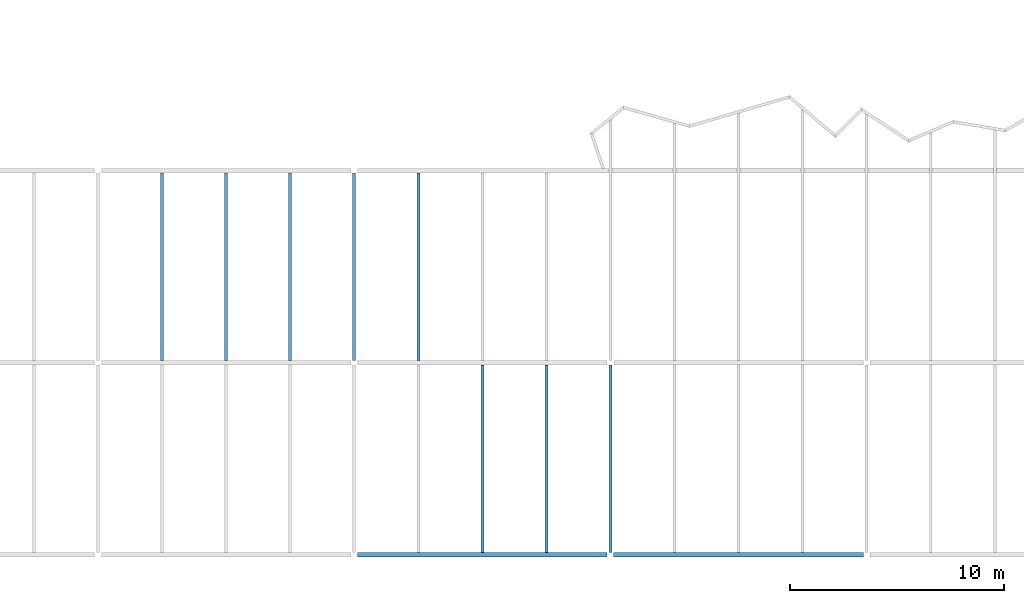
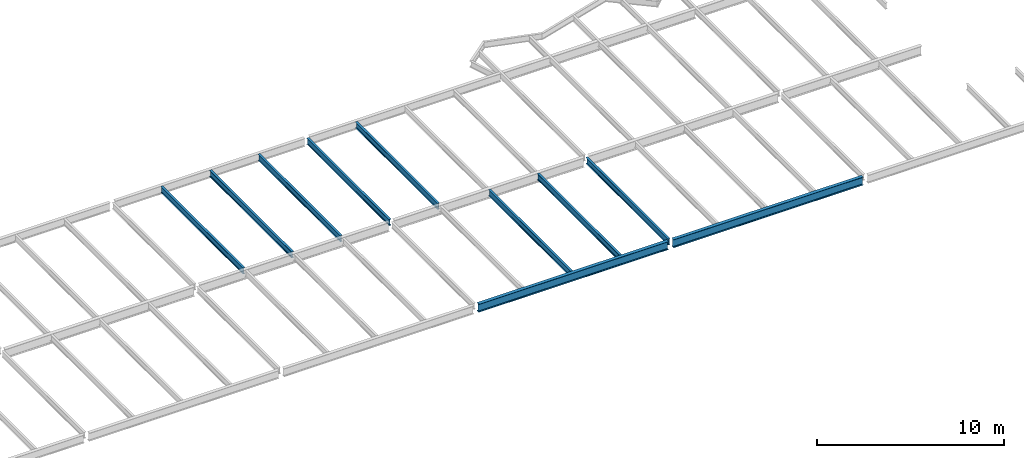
# One storey, part 17 of 23: 10 beams.
"""IFC2X3 building model written with IfcOpenShell, lengths in millimetres."""

from ifc_helpers import new_model, si_unit, origin, place, context, project, spatial, faceted_brep, material, element, save


model = new_model("IFC2X3")

# Units and contexts
context_of_model = context(None, 3, precision=1e-05, world=origin())
ifc_project = project(units=[si_unit("LENGTHUNIT", "METRE", prefix="MILLI")], contexts=[context_of_model])

# Building, storey
building = spatial("IfcBuilding", under=ifc_project, Name="Building", CompositionType="ELEMENT")
storey = spatial("IfcBuildingStorey", under=building, Name="FL5-FRM", CompositionType="ELEMENT")

# Beams
ifc_material_1 = material(Name="A992")
beam_1_placement = place(None, origin())
element("IfcBeam", 1, at=beam_1_placement, inside=storey, material=ifc_material_1, Name="B817", context=context_of_model, shape_type="Brep", body=[
    faceted_brep([(38930.0, 26895.5, 17474.0), (39070.0, 26895.5, 17474.0), (39070.0, 18114.5, 17474.0), (38930.0, 18114.5, 17474.0), (39070.0, 26895.5, 17482.8), (39070.0, 18114.5, 17482.8), (39013.4, 26895.5, 17482.8), (39013.4, 18114.5, 17482.8), (39010.8, 26895.5, 17483.1), (39010.8, 18114.5, 17483.1), (39008.3, 26895.5, 17484.2), (39008.3, 18114.5, 17484.2), (39006.2, 26895.5, 17485.8), (39006.2, 18114.5, 17485.8), (39004.6, 26895.5, 17487.9), (39004.6, 18114.5, 17487.9), (39003.5, 26895.5, 17490.4), (39003.5, 18114.5, 17490.4), (39003.2, 26895.5, 17493.0), (39003.2, 18114.5, 17493.0), (39003.2, 26895.5, 17854.0), (39003.2, 18114.5, 17854.0), (39003.5, 26895.5, 17856.6), (39003.5, 18114.5, 17856.6), (39004.6, 26895.5, 17859.1), (39004.6, 18114.5, 17859.1), (39006.2, 26895.5, 17861.2), (39006.2, 18114.5, 17861.2), (39008.3, 26895.5, 17862.8), (39008.3, 18114.5, 17862.8), (39010.8, 26895.5, 17863.9), (39010.8, 18114.5, 17863.9), (39013.4, 26895.5, 17864.2), (39013.4, 18114.5, 17864.2), (39070.0, 26895.5, 17864.2), (39070.0, 18114.5, 17864.2), (39070.0, 26895.5, 17873.0), (39070.0, 18114.5, 17873.0), (38930.0, 26895.5, 17873.0), (38930.0, 18114.5, 17873.0), (38930.0, 26895.5, 17864.2), (38930.0, 18114.5, 17864.2), (38986.6, 26895.5, 17864.2), (38986.6, 18114.5, 17864.2), (38989.2, 26895.5, 17863.9), (38989.2, 18114.5, 17863.9), (38991.7, 26895.5, 17862.8), (38991.7, 18114.5, 17862.8), (38993.8, 26895.5, 17861.2), (38993.8, 18114.5, 17861.2), (38995.4, 26895.5, 17859.1), (38995.4, 18114.5, 17859.1), (38996.5, 26895.5, 17856.6), (38996.5, 18114.5, 17856.6), (38996.8, 26895.5, 17854.0), (38996.8, 18114.5, 17854.0), (38996.8, 26895.5, 17493.0), (38996.8, 18114.5, 17493.0), (38996.5, 26895.5, 17490.4), (38996.5, 18114.5, 17490.4), (38995.4, 26895.5, 17487.9), (38995.4, 18114.5, 17487.9), (38993.8, 26895.5, 17485.8), (38993.8, 18114.5, 17485.8), (38991.7, 26895.5, 17484.2), (38991.7, 18114.5, 17484.2), (38989.2, 26895.5, 17483.1), (38989.2, 18114.5, 17483.1), (38986.6, 26895.5, 17482.8), (38986.6, 18114.5, 17482.8), (38930.0, 26895.5, 17482.8), (38930.0, 18114.5, 17482.8)], [[[0, 1, 2, 3]], [[1, 4, 5, 2]], [[4, 6, 7, 5]], [[6, 8, 9, 7]], [[8, 10, 11, 9]], [[10, 12, 13, 11]], [[12, 14, 15, 13]], [[14, 16, 17, 15]], [[16, 18, 19, 17]], [[18, 20, 21, 19]], [[20, 22, 23, 21]], [[22, 24, 25, 23]], [[24, 26, 27, 25]], [[26, 28, 29, 27]], [[28, 30, 31, 29]], [[30, 32, 33, 31]], [[32, 34, 35, 33]], [[34, 36, 37, 35]], [[36, 38, 39, 37]], [[38, 40, 41, 39]], [[40, 42, 43, 41]], [[42, 44, 45, 43]], [[44, 46, 47, 45]], [[46, 48, 49, 47]], [[48, 50, 51, 49]], [[50, 52, 53, 51]], [[52, 54, 55, 53]], [[54, 56, 57, 55]], [[56, 58, 59, 57]], [[58, 60, 61, 59]], [[60, 62, 63, 61]], [[62, 64, 65, 63]], [[64, 66, 67, 65]], [[66, 68, 69, 67]], [[68, 70, 71, 69]], [[70, 0, 3, 71]], [[0, 70, 68, 66, 64, 62, 60, 58, 56, 54, 52, 50, 48, 46, 44, 42, 40, 38, 36, 34, 32, 30, 28, 26, 24, 22, 20, 18, 16, 14, 12, 10, 8, 6, 4, 1]], [[3, 2, 5, 7, 9, 11, 13, 15, 17, 19, 21, 23, 25, 27, 29, 31, 33, 35, 37, 39, 41, 43, 45, 47, 49, 51, 53, 55, 57, 59, 61, 63, 65, 67, 69, 71]]]),
])
ifc_material_2 = material(Name="A992")
beam_2_placement = place(None, origin())
element("IfcBeam", 2, at=beam_2_placement, inside=storey, material=ifc_material_2, Name="B818", context=context_of_model, shape_type="Brep", body=[
    faceted_brep([(41930.0, 26895.5, 17474.0), (42070.0, 26895.5, 17474.0), (42070.0, 18114.5, 17474.0), (41930.0, 18114.5, 17474.0), (42070.0, 26895.5, 17482.8), (42070.0, 18114.5, 17482.8), (42013.4, 26895.5, 17482.8), (42013.4, 18114.5, 17482.8), (42010.8, 26895.5, 17483.1), (42010.8, 18114.5, 17483.1), (42008.3, 26895.5, 17484.2), (42008.3, 18114.5, 17484.2), (42006.2, 26895.5, 17485.8), (42006.2, 18114.5, 17485.8), (42004.6, 26895.5, 17487.9), (42004.6, 18114.5, 17487.9), (42003.5, 26895.5, 17490.4), (42003.5, 18114.5, 17490.4), (42003.2, 26895.5, 17493.0), (42003.2, 18114.5, 17493.0), (42003.2, 26895.5, 17854.0), (42003.2, 18114.5, 17854.0), (42003.5, 26895.5, 17856.6), (42003.5, 18114.5, 17856.6), (42004.6, 26895.5, 17859.1), (42004.6, 18114.5, 17859.1), (42006.2, 26895.5, 17861.2), (42006.2, 18114.5, 17861.2), (42008.3, 26895.5, 17862.8), (42008.3, 18114.5, 17862.8), (42010.8, 26895.5, 17863.9), (42010.8, 18114.5, 17863.9), (42013.4, 26895.5, 17864.2), (42013.4, 18114.5, 17864.2), (42070.0, 26895.5, 17864.2), (42070.0, 18114.5, 17864.2), (42070.0, 26895.5, 17873.0), (42070.0, 18114.5, 17873.0), (41930.0, 26895.5, 17873.0), (41930.0, 18114.5, 17873.0), (41930.0, 26895.5, 17864.2), (41930.0, 18114.5, 17864.2), (41986.6, 26895.5, 17864.2), (41986.6, 18114.5, 17864.2), (41989.2, 26895.5, 17863.9), (41989.2, 18114.5, 17863.9), (41991.7, 26895.5, 17862.8), (41991.7, 18114.5, 17862.8), (41993.8, 26895.5, 17861.2), (41993.8, 18114.5, 17861.2), (41995.4, 26895.5, 17859.1), (41995.4, 18114.5, 17859.1), (41996.5, 26895.5, 17856.6), (41996.5, 18114.5, 17856.6), (41996.8, 26895.5, 17854.0), (41996.8, 18114.5, 17854.0), (41996.8, 26895.5, 17493.0), (41996.8, 18114.5, 17493.0), (41996.5, 26895.5, 17490.4), (41996.5, 18114.5, 17490.4), (41995.4, 26895.5, 17487.9), (41995.4, 18114.5, 17487.9), (41993.8, 26895.5, 17485.8), (41993.8, 18114.5, 17485.8), (41991.7, 26895.5, 17484.2), (41991.7, 18114.5, 17484.2), (41989.2, 26895.5, 17483.1), (41989.2, 18114.5, 17483.1), (41986.6, 26895.5, 17482.8), (41986.6, 18114.5, 17482.8), (41930.0, 26895.5, 17482.8), (41930.0, 18114.5, 17482.8)], [[[0, 1, 2, 3]], [[1, 4, 5, 2]], [[4, 6, 7, 5]], [[6, 8, 9, 7]], [[8, 10, 11, 9]], [[10, 12, 13, 11]], [[12, 14, 15, 13]], [[14, 16, 17, 15]], [[16, 18, 19, 17]], [[18, 20, 21, 19]], [[20, 22, 23, 21]], [[22, 24, 25, 23]], [[24, 26, 27, 25]], [[26, 28, 29, 27]], [[28, 30, 31, 29]], [[30, 32, 33, 31]], [[32, 34, 35, 33]], [[34, 36, 37, 35]], [[36, 38, 39, 37]], [[38, 40, 41, 39]], [[40, 42, 43, 41]], [[42, 44, 45, 43]], [[44, 46, 47, 45]], [[46, 48, 49, 47]], [[48, 50, 51, 49]], [[50, 52, 53, 51]], [[52, 54, 55, 53]], [[54, 56, 57, 55]], [[56, 58, 59, 57]], [[58, 60, 61, 59]], [[60, 62, 63, 61]], [[62, 64, 65, 63]], [[64, 66, 67, 65]], [[66, 68, 69, 67]], [[68, 70, 71, 69]], [[70, 0, 3, 71]], [[0, 70, 68, 66, 64, 62, 60, 58, 56, 54, 52, 50, 48, 46, 44, 42, 40, 38, 36, 34, 32, 30, 28, 26, 24, 22, 20, 18, 16, 14, 12, 10, 8, 6, 4, 1]], [[3, 2, 5, 7, 9, 11, 13, 15, 17, 19, 21, 23, 25, 27, 29, 31, 33, 35, 37, 39, 41, 43, 45, 47, 49, 51, 53, 55, 57, 59, 61, 63, 65, 67, 69, 71]]]),
])
ifc_material_3 = material(Name="A992")
beam_3_placement = place(None, origin())
element("IfcBeam", 3, at=beam_3_placement, inside=storey, material=ifc_material_3, Name="B819", context=context_of_model, shape_type="Brep", body=[
    faceted_brep([(44930.0, 26895.5, 17474.0), (45070.0, 26895.5, 17474.0), (45070.0, 18114.5, 17474.0), (44930.0, 18114.5, 17474.0), (45070.0, 26895.5, 17482.8), (45070.0, 18114.5, 17482.8), (45013.4, 26895.5, 17482.8), (45013.4, 18114.5, 17482.8), (45010.8, 26895.5, 17483.1), (45010.8, 18114.5, 17483.1), (45008.3, 26895.5, 17484.2), (45008.3, 18114.5, 17484.2), (45006.2, 26895.5, 17485.8), (45006.2, 18114.5, 17485.8), (45004.6, 26895.5, 17487.9), (45004.6, 18114.5, 17487.9), (45003.5, 26895.5, 17490.4), (45003.5, 18114.5, 17490.4), (45003.2, 26895.5, 17493.0), (45003.2, 18114.5, 17493.0), (45003.2, 26895.5, 17854.0), (45003.2, 18114.5, 17854.0), (45003.5, 26895.5, 17856.6), (45003.5, 18114.5, 17856.6), (45004.6, 26895.5, 17859.1), (45004.6, 18114.5, 17859.1), (45006.2, 26895.5, 17861.2), (45006.2, 18114.5, 17861.2), (45008.3, 26895.5, 17862.8), (45008.3, 18114.5, 17862.8), (45010.8, 26895.5, 17863.9), (45010.8, 18114.5, 17863.9), (45013.4, 26895.5, 17864.2), (45013.4, 18114.5, 17864.2), (45070.0, 26895.5, 17864.2), (45070.0, 18114.5, 17864.2), (45070.0, 26895.5, 17873.0), (45070.0, 18114.5, 17873.0), (44930.0, 26895.5, 17873.0), (44930.0, 18114.5, 17873.0), (44930.0, 26895.5, 17864.2), (44930.0, 18114.5, 17864.2), (44986.6, 26895.5, 17864.2), (44986.6, 18114.5, 17864.2), (44989.2, 26895.5, 17863.9), (44989.2, 18114.5, 17863.9), (44991.7, 26895.5, 17862.8), (44991.7, 18114.5, 17862.8), (44993.8, 26895.5, 17861.2), (44993.8, 18114.5, 17861.2), (44995.4, 26895.5, 17859.1), (44995.4, 18114.5, 17859.1), (44996.5, 26895.5, 17856.6), (44996.5, 18114.5, 17856.6), (44996.8, 26895.5, 17854.0), (44996.8, 18114.5, 17854.0), (44996.8, 26895.5, 17493.0), (44996.8, 18114.5, 17493.0), (44996.5, 26895.5, 17490.4), (44996.5, 18114.5, 17490.4), (44995.4, 26895.5, 17487.9), (44995.4, 18114.5, 17487.9), (44993.8, 26895.5, 17485.8), (44993.8, 18114.5, 17485.8), (44991.7, 26895.5, 17484.2), (44991.7, 18114.5, 17484.2), (44989.2, 26895.5, 17483.1), (44989.2, 18114.5, 17483.1), (44986.6, 26895.5, 17482.8), (44986.6, 18114.5, 17482.8), (44930.0, 26895.5, 17482.8), (44930.0, 18114.5, 17482.8)], [[[0, 1, 2, 3]], [[1, 4, 5, 2]], [[4, 6, 7, 5]], [[6, 8, 9, 7]], [[8, 10, 11, 9]], [[10, 12, 13, 11]], [[12, 14, 15, 13]], [[14, 16, 17, 15]], [[16, 18, 19, 17]], [[18, 20, 21, 19]], [[20, 22, 23, 21]], [[22, 24, 25, 23]], [[24, 26, 27, 25]], [[26, 28, 29, 27]], [[28, 30, 31, 29]], [[30, 32, 33, 31]], [[32, 34, 35, 33]], [[34, 36, 37, 35]], [[36, 38, 39, 37]], [[38, 40, 41, 39]], [[40, 42, 43, 41]], [[42, 44, 45, 43]], [[44, 46, 47, 45]], [[46, 48, 49, 47]], [[48, 50, 51, 49]], [[50, 52, 53, 51]], [[52, 54, 55, 53]], [[54, 56, 57, 55]], [[56, 58, 59, 57]], [[58, 60, 61, 59]], [[60, 62, 63, 61]], [[62, 64, 65, 63]], [[64, 66, 67, 65]], [[66, 68, 69, 67]], [[68, 70, 71, 69]], [[70, 0, 3, 71]], [[0, 70, 68, 66, 64, 62, 60, 58, 56, 54, 52, 50, 48, 46, 44, 42, 40, 38, 36, 34, 32, 30, 28, 26, 24, 22, 20, 18, 16, 14, 12, 10, 8, 6, 4, 1]], [[3, 2, 5, 7, 9, 11, 13, 15, 17, 19, 21, 23, 25, 27, 29, 31, 33, 35, 37, 39, 41, 43, 45, 47, 49, 51, 53, 55, 57, 59, 61, 63, 65, 67, 69, 71]]]),
])
ifc_material_4 = material(Name="A992")
beam_4_placement = place(None, origin())
element("IfcBeam", 4, at=beam_4_placement, inside=storey, material=ifc_material_4, Name="B825", context=context_of_model, shape_type="Brep", body=[
    faceted_brep([(50930.0, 26895.5, 17474.0), (51070.0, 26895.5, 17474.0), (51070.0, 18114.5, 17474.0), (50930.0, 18114.5, 17474.0), (51070.0, 26895.5, 17482.8), (51070.0, 18114.5, 17482.8), (51013.4, 26895.5, 17482.8), (51013.4, 18114.5, 17482.8), (51010.8, 26895.5, 17483.1), (51010.8, 18114.5, 17483.1), (51008.3, 26895.5, 17484.2), (51008.3, 18114.5, 17484.2), (51006.2, 26895.5, 17485.8), (51006.2, 18114.5, 17485.8), (51004.6, 26895.5, 17487.9), (51004.6, 18114.5, 17487.9), (51003.5, 26895.5, 17490.4), (51003.5, 18114.5, 17490.4), (51003.2, 26895.5, 17493.0), (51003.2, 18114.5, 17493.0), (51003.2, 26895.5, 17854.0), (51003.2, 18114.5, 17854.0), (51003.5, 26895.5, 17856.6), (51003.5, 18114.5, 17856.6), (51004.6, 26895.5, 17859.1), (51004.6, 18114.5, 17859.1), (51006.2, 26895.5, 17861.2), (51006.2, 18114.5, 17861.2), (51008.3, 26895.5, 17862.8), (51008.3, 18114.5, 17862.8), (51010.8, 26895.5, 17863.9), (51010.8, 18114.5, 17863.9), (51013.4, 26895.5, 17864.2), (51013.4, 18114.5, 17864.2), (51070.0, 26895.5, 17864.2), (51070.0, 18114.5, 17864.2), (51070.0, 26895.5, 17873.0), (51070.0, 18114.5, 17873.0), (50930.0, 26895.5, 17873.0), (50930.0, 18114.5, 17873.0), (50930.0, 26895.5, 17864.2), (50930.0, 18114.5, 17864.2), (50986.6, 26895.5, 17864.2), (50986.6, 18114.5, 17864.2), (50989.2, 26895.5, 17863.9), (50989.2, 18114.5, 17863.9), (50991.7, 26895.5, 17862.8), (50991.7, 18114.5, 17862.8), (50993.8, 26895.5, 17861.2), (50993.8, 18114.5, 17861.2), (50995.4, 26895.5, 17859.1), (50995.4, 18114.5, 17859.1), (50996.5, 26895.5, 17856.6), (50996.5, 18114.5, 17856.6), (50996.8, 26895.5, 17854.0), (50996.8, 18114.5, 17854.0), (50996.8, 26895.5, 17493.0), (50996.8, 18114.5, 17493.0), (50996.5, 26895.5, 17490.4), (50996.5, 18114.5, 17490.4), (50995.4, 26895.5, 17487.9), (50995.4, 18114.5, 17487.9), (50993.8, 26895.5, 17485.8), (50993.8, 18114.5, 17485.8), (50991.7, 26895.5, 17484.2), (50991.7, 18114.5, 17484.2), (50989.2, 26895.5, 17483.1), (50989.2, 18114.5, 17483.1), (50986.6, 26895.5, 17482.8), (50986.6, 18114.5, 17482.8), (50930.0, 26895.5, 17482.8), (50930.0, 18114.5, 17482.8)], [[[0, 1, 2, 3]], [[1, 4, 5, 2]], [[4, 6, 7, 5]], [[6, 8, 9, 7]], [[8, 10, 11, 9]], [[10, 12, 13, 11]], [[12, 14, 15, 13]], [[14, 16, 17, 15]], [[16, 18, 19, 17]], [[18, 20, 21, 19]], [[20, 22, 23, 21]], [[22, 24, 25, 23]], [[24, 26, 27, 25]], [[26, 28, 29, 27]], [[28, 30, 31, 29]], [[30, 32, 33, 31]], [[32, 34, 35, 33]], [[34, 36, 37, 35]], [[36, 38, 39, 37]], [[38, 40, 41, 39]], [[40, 42, 43, 41]], [[42, 44, 45, 43]], [[44, 46, 47, 45]], [[46, 48, 49, 47]], [[48, 50, 51, 49]], [[50, 52, 53, 51]], [[52, 54, 55, 53]], [[54, 56, 57, 55]], [[56, 58, 59, 57]], [[58, 60, 61, 59]], [[60, 62, 63, 61]], [[62, 64, 65, 63]], [[64, 66, 67, 65]], [[66, 68, 69, 67]], [[68, 70, 71, 69]], [[70, 0, 3, 71]], [[0, 70, 68, 66, 64, 62, 60, 58, 56, 54, 52, 50, 48, 46, 44, 42, 40, 38, 36, 34, 32, 30, 28, 26, 24, 22, 20, 18, 16, 14, 12, 10, 8, 6, 4, 1]], [[3, 2, 5, 7, 9, 11, 13, 15, 17, 19, 21, 23, 25, 27, 29, 31, 33, 35, 37, 39, 41, 43, 45, 47, 49, 51, 53, 55, 57, 59, 61, 63, 65, 67, 69, 71]]]),
])
ifc_material_5 = material(Name="A992")
beam_5_placement = place(None, origin())
element("IfcBeam", 5, at=beam_5_placement, inside=storey, material=ifc_material_5, Name="B828", context=context_of_model, shape_type="Brep", body=[
    faceted_brep([(48070.0, 18114.5, 17474.0), (47930.0, 18114.5, 17474.0), (47930.0, 26895.5, 17474.0), (48070.0, 26895.5, 17474.0), (47930.0, 18114.5, 17482.8), (47930.0, 26895.5, 17482.8), (47986.6, 18114.5, 17482.8), (47986.6, 26895.5, 17482.8), (47989.2, 18114.5, 17483.1), (47989.2, 26895.5, 17483.1), (47991.7, 18114.5, 17484.2), (47991.7, 26895.5, 17484.2), (47993.8, 18114.5, 17485.8), (47993.8, 26895.5, 17485.8), (47995.4, 18114.5, 17487.9), (47995.4, 26895.5, 17487.9), (47996.5, 18114.5, 17490.4), (47996.5, 26895.5, 17490.4), (47996.8, 18114.5, 17493.0), (47996.8, 26895.5, 17493.0), (47996.8, 18114.5, 17854.0), (47996.8, 26895.5, 17854.0), (47996.5, 18114.5, 17856.6), (47996.5, 26895.5, 17856.6), (47995.4, 18114.5, 17859.1), (47995.4, 26895.5, 17859.1), (47993.8, 18114.5, 17861.2), (47993.8, 26895.5, 17861.2), (47991.7, 18114.5, 17862.8), (47991.7, 26895.5, 17862.8), (47989.2, 18114.5, 17863.9), (47989.2, 26895.5, 17863.9), (47986.6, 18114.5, 17864.2), (47986.6, 26895.5, 17864.2), (47930.0, 18114.5, 17864.2), (47930.0, 26895.5, 17864.2), (47930.0, 18114.5, 17873.0), (47930.0, 26895.5, 17873.0), (48070.0, 18114.5, 17873.0), (48070.0, 26895.5, 17873.0), (48070.0, 18114.5, 17864.2), (48070.0, 26895.5, 17864.2), (48013.4, 18114.5, 17864.2), (48013.4, 26895.5, 17864.2), (48010.8, 18114.5, 17863.9), (48010.8, 26895.5, 17863.9), (48008.3, 18114.5, 17862.8), (48008.3, 26895.5, 17862.8), (48006.2, 18114.5, 17861.2), (48006.2, 26895.5, 17861.2), (48004.6, 18114.5, 17859.1), (48004.6, 26895.5, 17859.1), (48003.5, 18114.5, 17856.6), (48003.5, 26895.5, 17856.6), (48003.2, 18114.5, 17854.0), (48003.2, 26895.5, 17854.0), (48003.2, 18114.5, 17493.0), (48003.2, 26895.5, 17493.0), (48003.5, 18114.5, 17490.4), (48003.5, 26895.5, 17490.4), (48004.6, 18114.5, 17487.9), (48004.6, 26895.5, 17487.9), (48006.2, 18114.5, 17485.8), (48006.2, 26895.5, 17485.8), (48008.3, 18114.5, 17484.2), (48008.3, 26895.5, 17484.2), (48010.8, 18114.5, 17483.1), (48010.8, 26895.5, 17483.1), (48013.4, 18114.5, 17482.8), (48013.4, 26895.5, 17482.8), (48070.0, 18114.5, 17482.8), (48070.0, 26895.5, 17482.8)], [[[0, 1, 2, 3]], [[1, 4, 5, 2]], [[4, 6, 7, 5]], [[6, 8, 9, 7]], [[8, 10, 11, 9]], [[10, 12, 13, 11]], [[12, 14, 15, 13]], [[14, 16, 17, 15]], [[16, 18, 19, 17]], [[18, 20, 21, 19]], [[20, 22, 23, 21]], [[22, 24, 25, 23]], [[24, 26, 27, 25]], [[26, 28, 29, 27]], [[28, 30, 31, 29]], [[30, 32, 33, 31]], [[32, 34, 35, 33]], [[34, 36, 37, 35]], [[36, 38, 39, 37]], [[38, 40, 41, 39]], [[40, 42, 43, 41]], [[42, 44, 45, 43]], [[44, 46, 47, 45]], [[46, 48, 49, 47]], [[48, 50, 51, 49]], [[50, 52, 53, 51]], [[52, 54, 55, 53]], [[54, 56, 57, 55]], [[56, 58, 59, 57]], [[58, 60, 61, 59]], [[60, 62, 63, 61]], [[62, 64, 65, 63]], [[64, 66, 67, 65]], [[66, 68, 69, 67]], [[68, 70, 71, 69]], [[70, 0, 3, 71]], [[0, 70, 68, 66, 64, 62, 60, 58, 56, 54, 52, 50, 48, 46, 44, 42, 40, 38, 36, 34, 32, 30, 28, 26, 24, 22, 20, 18, 16, 14, 12, 10, 8, 6, 4, 1]], [[3, 2, 5, 7, 9, 11, 13, 15, 17, 19, 21, 23, 25, 27, 29, 31, 33, 35, 37, 39, 41, 43, 45, 47, 49, 51, 53, 55, 57, 59, 61, 63, 65, 67, 69, 71]]]),
])
ifc_material_6 = material(Name="A992")
beam_6_placement = place(None, origin())
element("IfcBeam", 6, at=beam_6_placement, inside=storey, material=ifc_material_6, Name="B830", context=context_of_model, shape_type="Brep", body=[
    faceted_brep([(54070.0, 9104.5, 17474.0), (53930.0, 9104.5, 17474.0), (53930.0, 17885.5, 17474.0), (54070.0, 17885.5, 17474.0), (53930.0, 9104.5, 17482.8), (53930.0, 17885.5, 17482.8), (53986.6, 9104.5, 17482.8), (53986.6, 17885.5, 17482.8), (53989.2, 9104.5, 17483.1), (53989.2, 17885.5, 17483.1), (53991.7, 9104.5, 17484.2), (53991.7, 17885.5, 17484.2), (53993.8, 9104.5, 17485.8), (53993.8, 17885.5, 17485.8), (53995.4, 9104.5, 17487.9), (53995.4, 17885.5, 17487.9), (53996.5, 9104.5, 17490.4), (53996.5, 17885.5, 17490.4), (53996.8, 9104.5, 17493.0), (53996.8, 17885.5, 17493.0), (53996.8, 9104.5, 17854.0), (53996.8, 17885.5, 17854.0), (53996.5, 9104.5, 17856.6), (53996.5, 17885.5, 17856.6), (53995.4, 9104.5, 17859.1), (53995.4, 17885.5, 17859.1), (53993.8, 9104.5, 17861.2), (53993.8, 17885.5, 17861.2), (53991.7, 9104.5, 17862.8), (53991.7, 17885.5, 17862.8), (53989.2, 9104.5, 17863.9), (53989.2, 17885.5, 17863.9), (53986.6, 9104.5, 17864.2), (53986.6, 17885.5, 17864.2), (53930.0, 9104.5, 17864.2), (53930.0, 17885.5, 17864.2), (53930.0, 9104.5, 17873.0), (53930.0, 17885.5, 17873.0), (54070.0, 9104.5, 17873.0), (54070.0, 17885.5, 17873.0), (54070.0, 9104.5, 17864.2), (54070.0, 17885.5, 17864.2), (54013.4, 9104.5, 17864.2), (54013.4, 17885.5, 17864.2), (54010.8, 9104.5, 17863.9), (54010.8, 17885.5, 17863.9), (54008.3, 9104.5, 17862.8), (54008.3, 17885.5, 17862.8), (54006.2, 9104.5, 17861.2), (54006.2, 17885.5, 17861.2), (54004.6, 9104.5, 17859.1), (54004.6, 17885.5, 17859.1), (54003.5, 9104.5, 17856.6), (54003.5, 17885.5, 17856.6), (54003.2, 9104.5, 17854.0), (54003.2, 17885.5, 17854.0), (54003.2, 9104.5, 17493.0), (54003.2, 17885.5, 17493.0), (54003.5, 9104.5, 17490.4), (54003.5, 17885.5, 17490.4), (54004.6, 9104.5, 17487.9), (54004.6, 17885.5, 17487.9), (54006.2, 9104.5, 17485.8), (54006.2, 17885.5, 17485.8), (54008.3, 9104.5, 17484.2), (54008.3, 17885.5, 17484.2), (54010.8, 9104.5, 17483.1), (54010.8, 17885.5, 17483.1), (54013.4, 9104.5, 17482.8), (54013.4, 17885.5, 17482.8), (54070.0, 9104.5, 17482.8), (54070.0, 17885.5, 17482.8)], [[[0, 1, 2, 3]], [[1, 4, 5, 2]], [[4, 6, 7, 5]], [[6, 8, 9, 7]], [[8, 10, 11, 9]], [[10, 12, 13, 11]], [[12, 14, 15, 13]], [[14, 16, 17, 15]], [[16, 18, 19, 17]], [[18, 20, 21, 19]], [[20, 22, 23, 21]], [[22, 24, 25, 23]], [[24, 26, 27, 25]], [[26, 28, 29, 27]], [[28, 30, 31, 29]], [[30, 32, 33, 31]], [[32, 34, 35, 33]], [[34, 36, 37, 35]], [[36, 38, 39, 37]], [[38, 40, 41, 39]], [[40, 42, 43, 41]], [[42, 44, 45, 43]], [[44, 46, 47, 45]], [[46, 48, 49, 47]], [[48, 50, 51, 49]], [[50, 52, 53, 51]], [[52, 54, 55, 53]], [[54, 56, 57, 55]], [[56, 58, 59, 57]], [[58, 60, 61, 59]], [[60, 62, 63, 61]], [[62, 64, 65, 63]], [[64, 66, 67, 65]], [[66, 68, 69, 67]], [[68, 70, 71, 69]], [[70, 0, 3, 71]], [[0, 70, 68, 66, 64, 62, 60, 58, 56, 54, 52, 50, 48, 46, 44, 42, 40, 38, 36, 34, 32, 30, 28, 26, 24, 22, 20, 18, 16, 14, 12, 10, 8, 6, 4, 1]], [[3, 2, 5, 7, 9, 11, 13, 15, 17, 19, 21, 23, 25, 27, 29, 31, 33, 35, 37, 39, 41, 43, 45, 47, 49, 51, 53, 55, 57, 59, 61, 63, 65, 67, 69, 71]]]),
])
ifc_material_7 = material(Name="A992")
beam_7_placement = place(None, origin())
element("IfcBeam", 7, at=beam_7_placement, inside=storey, material=ifc_material_7, Name="B831", context=context_of_model, shape_type="Brep", body=[
    faceted_brep([(57070.0, 9104.5, 17474.0), (56930.0, 9104.5, 17474.0), (56930.0, 17885.5, 17474.0), (57070.0, 17885.5, 17474.0), (56930.0, 9104.5, 17482.8), (56930.0, 17885.5, 17482.8), (56986.6, 9104.5, 17482.8), (56986.6, 17885.5, 17482.8), (56989.2, 9104.5, 17483.1), (56989.2, 17885.5, 17483.1), (56991.7, 9104.5, 17484.2), (56991.7, 17885.5, 17484.2), (56993.8, 9104.5, 17485.8), (56993.8, 17885.5, 17485.8), (56995.4, 9104.5, 17487.9), (56995.4, 17885.5, 17487.9), (56996.5, 9104.5, 17490.4), (56996.5, 17885.5, 17490.4), (56996.8, 9104.5, 17493.0), (56996.8, 17885.5, 17493.0), (56996.8, 9104.5, 17854.0), (56996.8, 17885.5, 17854.0), (56996.5, 9104.5, 17856.6), (56996.5, 17885.5, 17856.6), (56995.4, 9104.5, 17859.1), (56995.4, 17885.5, 17859.1), (56993.8, 9104.5, 17861.2), (56993.8, 17885.5, 17861.2), (56991.7, 9104.5, 17862.8), (56991.7, 17885.5, 17862.8), (56989.2, 9104.5, 17863.9), (56989.2, 17885.5, 17863.9), (56986.6, 9104.5, 17864.2), (56986.6, 17885.5, 17864.2), (56930.0, 9104.5, 17864.2), (56930.0, 17885.5, 17864.2), (56930.0, 9104.5, 17873.0), (56930.0, 17885.5, 17873.0), (57070.0, 9104.5, 17873.0), (57070.0, 17885.5, 17873.0), (57070.0, 9104.5, 17864.2), (57070.0, 17885.5, 17864.2), (57013.4, 9104.5, 17864.2), (57013.4, 17885.5, 17864.2), (57010.8, 9104.5, 17863.9), (57010.8, 17885.5, 17863.9), (57008.3, 9104.5, 17862.8), (57008.3, 17885.5, 17862.8), (57006.2, 9104.5, 17861.2), (57006.2, 17885.5, 17861.2), (57004.6, 9104.5, 17859.1), (57004.6, 17885.5, 17859.1), (57003.5, 9104.5, 17856.6), (57003.5, 17885.5, 17856.6), (57003.2, 9104.5, 17854.0), (57003.2, 17885.5, 17854.0), (57003.2, 9104.5, 17493.0), (57003.2, 17885.5, 17493.0), (57003.5, 9104.5, 17490.4), (57003.5, 17885.5, 17490.4), (57004.6, 9104.5, 17487.9), (57004.6, 17885.5, 17487.9), (57006.2, 9104.5, 17485.8), (57006.2, 17885.5, 17485.8), (57008.3, 9104.5, 17484.2), (57008.3, 17885.5, 17484.2), (57010.8, 9104.5, 17483.1), (57010.8, 17885.5, 17483.1), (57013.4, 9104.5, 17482.8), (57013.4, 17885.5, 17482.8), (57070.0, 9104.5, 17482.8), (57070.0, 17885.5, 17482.8)], [[[0, 1, 2, 3]], [[1, 4, 5, 2]], [[4, 6, 7, 5]], [[6, 8, 9, 7]], [[8, 10, 11, 9]], [[10, 12, 13, 11]], [[12, 14, 15, 13]], [[14, 16, 17, 15]], [[16, 18, 19, 17]], [[18, 20, 21, 19]], [[20, 22, 23, 21]], [[22, 24, 25, 23]], [[24, 26, 27, 25]], [[26, 28, 29, 27]], [[28, 30, 31, 29]], [[30, 32, 33, 31]], [[32, 34, 35, 33]], [[34, 36, 37, 35]], [[36, 38, 39, 37]], [[38, 40, 41, 39]], [[40, 42, 43, 41]], [[42, 44, 45, 43]], [[44, 46, 47, 45]], [[46, 48, 49, 47]], [[48, 50, 51, 49]], [[50, 52, 53, 51]], [[52, 54, 55, 53]], [[54, 56, 57, 55]], [[56, 58, 59, 57]], [[58, 60, 61, 59]], [[60, 62, 63, 61]], [[62, 64, 65, 63]], [[64, 66, 67, 65]], [[66, 68, 69, 67]], [[68, 70, 71, 69]], [[70, 0, 3, 71]], [[0, 70, 68, 66, 64, 62, 60, 58, 56, 54, 52, 50, 48, 46, 44, 42, 40, 38, 36, 34, 32, 30, 28, 26, 24, 22, 20, 18, 16, 14, 12, 10, 8, 6, 4, 1]], [[3, 2, 5, 7, 9, 11, 13, 15, 17, 19, 21, 23, 25, 27, 29, 31, 33, 35, 37, 39, 41, 43, 45, 47, 49, 51, 53, 55, 57, 59, 61, 63, 65, 67, 69, 71]]]),
])
ifc_material_8 = material(Name="A992")
beam_8_placement = place(None, origin())
element("IfcBeam", 8, at=beam_8_placement, inside=storey, material=ifc_material_8, Name="Column593", context=context_of_model, shape_type="Brep", body=[
    faceted_brep([(48153.0, 8895.5, 17345.0), (48153.0, 9104.5, 17345.0), (59847.0, 9104.5, 17345.0), (59847.0, 8895.5, 17345.0), (48153.0, 9104.5, 17358.3), (59847.0, 9104.5, 17358.3), (48153.0, 9017.45, 17358.3), (59847.0, 9017.45, 17358.3), (48153.0, 9014.16, 17358.7), (59847.0, 9014.16, 17358.7), (48153.0, 9011.1, 17360.0), (59847.0, 9011.1, 17360.0), (48153.0, 9008.47, 17362.0), (59847.0, 9008.47, 17362.0), (48153.0, 9006.45, 17364.7), (59847.0, 9006.45, 17364.7), (48153.0, 9005.18, 17367.7), (59847.0, 9005.18, 17367.7), (48153.0, 9004.75, 17371.0), (59847.0, 9004.75, 17371.0), (48153.0, 9004.75, 17847.0), (59847.0, 9004.75, 17847.0), (48153.0, 9005.18, 17850.3), (59847.0, 9005.18, 17850.3), (48153.0, 9006.45, 17853.3), (59847.0, 9006.45, 17853.3), (48153.0, 9008.47, 17856.0), (59847.0, 9008.47, 17856.0), (48153.0, 9011.1, 17858.0), (59847.0, 9011.1, 17858.0), (48153.0, 9014.16, 17859.3), (59847.0, 9014.16, 17859.3), (48153.0, 9017.45, 17859.7), (59847.0, 9017.45, 17859.7), (48153.0, 9104.5, 17859.7), (59847.0, 9104.5, 17859.7), (48153.0, 9104.5, 17873.0), (59847.0, 9104.5, 17873.0), (48153.0, 8895.5, 17873.0), (59847.0, 8895.5, 17873.0), (48153.0, 8895.5, 17859.7), (59847.0, 8895.5, 17859.7), (48153.0, 8982.55, 17859.7), (59847.0, 8982.55, 17859.7), (48153.0, 8985.84, 17859.3), (59847.0, 8985.84, 17859.3), (48153.0, 8988.9, 17858.0), (59847.0, 8988.9, 17858.0), (48153.0, 8991.53, 17856.0), (59847.0, 8991.53, 17856.0), (48153.0, 8993.55, 17853.3), (59847.0, 8993.55, 17853.3), (48153.0, 8994.82, 17850.3), (59847.0, 8994.82, 17850.3), (48153.0, 8995.25, 17847.0), (59847.0, 8995.25, 17847.0), (48153.0, 8995.25, 17371.0), (59847.0, 8995.25, 17371.0), (48153.0, 8994.82, 17367.7), (59847.0, 8994.82, 17367.7), (48153.0, 8993.55, 17364.7), (59847.0, 8993.55, 17364.7), (48153.0, 8991.53, 17362.0), (59847.0, 8991.53, 17362.0), (48153.0, 8988.9, 17360.0), (59847.0, 8988.9, 17360.0), (48153.0, 8985.84, 17358.7), (59847.0, 8985.84, 17358.7), (48153.0, 8982.55, 17358.3), (59847.0, 8982.55, 17358.3), (48153.0, 8895.5, 17358.3), (59847.0, 8895.5, 17358.3)], [[[0, 1, 2, 3]], [[1, 4, 5, 2]], [[4, 6, 7, 5]], [[6, 8, 9, 7]], [[8, 10, 11, 9]], [[10, 12, 13, 11]], [[12, 14, 15, 13]], [[14, 16, 17, 15]], [[16, 18, 19, 17]], [[18, 20, 21, 19]], [[20, 22, 23, 21]], [[22, 24, 25, 23]], [[24, 26, 27, 25]], [[26, 28, 29, 27]], [[28, 30, 31, 29]], [[30, 32, 33, 31]], [[32, 34, 35, 33]], [[34, 36, 37, 35]], [[36, 38, 39, 37]], [[38, 40, 41, 39]], [[40, 42, 43, 41]], [[42, 44, 45, 43]], [[44, 46, 47, 45]], [[46, 48, 49, 47]], [[48, 50, 51, 49]], [[50, 52, 53, 51]], [[52, 54, 55, 53]], [[54, 56, 57, 55]], [[56, 58, 59, 57]], [[58, 60, 61, 59]], [[60, 62, 63, 61]], [[62, 64, 65, 63]], [[64, 66, 67, 65]], [[66, 68, 69, 67]], [[68, 70, 71, 69]], [[70, 0, 3, 71]], [[0, 70, 68, 66, 64, 62, 60, 58, 56, 54, 52, 50, 48, 46, 44, 42, 40, 38, 36, 34, 32, 30, 28, 26, 24, 22, 20, 18, 16, 14, 12, 10, 8, 6, 4, 1]], [[3, 2, 5, 7, 9, 11, 13, 15, 17, 19, 21, 23, 25, 27, 29, 31, 33, 35, 37, 39, 41, 43, 45, 47, 49, 51, 53, 55, 57, 59, 61, 63, 65, 67, 69, 71]]]),
])
ifc_material_9 = material(Name="A992")
beam_9_placement = place(None, origin())
element("IfcBeam", 9, at=beam_9_placement, inside=storey, material=ifc_material_9, Name="B840", context=context_of_model, shape_type="Brep", body=[
    faceted_brep([(60070.0, 9104.5, 17474.0), (59930.0, 9104.5, 17474.0), (59930.0, 17885.5, 17474.0), (60070.0, 17885.5, 17474.0), (59930.0, 9104.5, 17482.8), (59930.0, 17885.5, 17482.8), (59986.6, 9104.5, 17482.8), (59986.6, 17885.5, 17482.8), (59989.2, 9104.5, 17483.1), (59989.2, 17885.5, 17483.1), (59991.7, 9104.5, 17484.2), (59991.7, 17885.5, 17484.2), (59993.8, 9104.5, 17485.8), (59993.8, 17885.5, 17485.8), (59995.4, 9104.5, 17487.9), (59995.4, 17885.5, 17487.9), (59996.5, 9104.5, 17490.4), (59996.5, 17885.5, 17490.4), (59996.8, 9104.5, 17493.0), (59996.8, 17885.5, 17493.0), (59996.8, 9104.5, 17854.0), (59996.8, 17885.5, 17854.0), (59996.5, 9104.5, 17856.6), (59996.5, 17885.5, 17856.6), (59995.4, 9104.5, 17859.1), (59995.4, 17885.5, 17859.1), (59993.8, 9104.5, 17861.2), (59993.8, 17885.5, 17861.2), (59991.7, 9104.5, 17862.8), (59991.7, 17885.5, 17862.8), (59989.2, 9104.5, 17863.9), (59989.2, 17885.5, 17863.9), (59986.6, 9104.5, 17864.2), (59986.6, 17885.5, 17864.2), (59930.0, 9104.5, 17864.2), (59930.0, 17885.5, 17864.2), (59930.0, 9104.5, 17873.0), (59930.0, 17885.5, 17873.0), (60070.0, 9104.5, 17873.0), (60070.0, 17885.5, 17873.0), (60070.0, 9104.5, 17864.2), (60070.0, 17885.5, 17864.2), (60013.4, 9104.5, 17864.2), (60013.4, 17885.5, 17864.2), (60010.8, 9104.5, 17863.9), (60010.8, 17885.5, 17863.9), (60008.3, 9104.5, 17862.8), (60008.3, 17885.5, 17862.8), (60006.2, 9104.5, 17861.2), (60006.2, 17885.5, 17861.2), (60004.6, 9104.5, 17859.1), (60004.6, 17885.5, 17859.1), (60003.5, 9104.5, 17856.6), (60003.5, 17885.5, 17856.6), (60003.2, 9104.5, 17854.0), (60003.2, 17885.5, 17854.0), (60003.2, 9104.5, 17493.0), (60003.2, 17885.5, 17493.0), (60003.5, 9104.5, 17490.4), (60003.5, 17885.5, 17490.4), (60004.6, 9104.5, 17487.9), (60004.6, 17885.5, 17487.9), (60006.2, 9104.5, 17485.8), (60006.2, 17885.5, 17485.8), (60008.3, 9104.5, 17484.2), (60008.3, 17885.5, 17484.2), (60010.8, 9104.5, 17483.1), (60010.8, 17885.5, 17483.1), (60013.4, 9104.5, 17482.8), (60013.4, 17885.5, 17482.8), (60070.0, 9104.5, 17482.8), (60070.0, 17885.5, 17482.8)], [[[0, 1, 2, 3]], [[1, 4, 5, 2]], [[4, 6, 7, 5]], [[6, 8, 9, 7]], [[8, 10, 11, 9]], [[10, 12, 13, 11]], [[12, 14, 15, 13]], [[14, 16, 17, 15]], [[16, 18, 19, 17]], [[18, 20, 21, 19]], [[20, 22, 23, 21]], [[22, 24, 25, 23]], [[24, 26, 27, 25]], [[26, 28, 29, 27]], [[28, 30, 31, 29]], [[30, 32, 33, 31]], [[32, 34, 35, 33]], [[34, 36, 37, 35]], [[36, 38, 39, 37]], [[38, 40, 41, 39]], [[40, 42, 43, 41]], [[42, 44, 45, 43]], [[44, 46, 47, 45]], [[46, 48, 49, 47]], [[48, 50, 51, 49]], [[50, 52, 53, 51]], [[52, 54, 55, 53]], [[54, 56, 57, 55]], [[56, 58, 59, 57]], [[58, 60, 61, 59]], [[60, 62, 63, 61]], [[62, 64, 65, 63]], [[64, 66, 67, 65]], [[66, 68, 69, 67]], [[68, 70, 71, 69]], [[70, 0, 3, 71]], [[0, 70, 68, 66, 64, 62, 60, 58, 56, 54, 52, 50, 48, 46, 44, 42, 40, 38, 36, 34, 32, 30, 28, 26, 24, 22, 20, 18, 16, 14, 12, 10, 8, 6, 4, 1]], [[3, 2, 5, 7, 9, 11, 13, 15, 17, 19, 21, 23, 25, 27, 29, 31, 33, 35, 37, 39, 41, 43, 45, 47, 49, 51, 53, 55, 57, 59, 61, 63, 65, 67, 69, 71]]]),
])
ifc_material_10 = material(Name="A992")
beam_10_placement = place(None, origin())
element("IfcBeam", 10, at=beam_10_placement, inside=storey, material=ifc_material_10, Name="Column596", context=context_of_model, shape_type="Brep", body=[
    faceted_brep([(60153.0, 8895.5, 17345.0), (60153.0, 9104.5, 17345.0), (71847.0, 9104.5, 17345.0), (71847.0, 8895.5, 17345.0), (60153.0, 9104.5, 17358.3), (71847.0, 9104.5, 17358.3), (60153.0, 9017.45, 17358.3), (71847.0, 9017.45, 17358.3), (60153.0, 9014.16, 17358.7), (71847.0, 9014.16, 17358.7), (60153.0, 9011.1, 17360.0), (71847.0, 9011.1, 17360.0), (60153.0, 9008.47, 17362.0), (71847.0, 9008.47, 17362.0), (60153.0, 9006.45, 17364.7), (71847.0, 9006.45, 17364.7), (60153.0, 9005.18, 17367.7), (71847.0, 9005.18, 17367.7), (60153.0, 9004.75, 17371.0), (71847.0, 9004.75, 17371.0), (60153.0, 9004.75, 17847.0), (71847.0, 9004.75, 17847.0), (60153.0, 9005.18, 17850.3), (71847.0, 9005.18, 17850.3), (60153.0, 9006.45, 17853.3), (71847.0, 9006.45, 17853.3), (60153.0, 9008.47, 17856.0), (71847.0, 9008.47, 17856.0), (60153.0, 9011.1, 17858.0), (71847.0, 9011.1, 17858.0), (60153.0, 9014.16, 17859.3), (71847.0, 9014.16, 17859.3), (60153.0, 9017.45, 17859.7), (71847.0, 9017.45, 17859.7), (60153.0, 9104.5, 17859.7), (71847.0, 9104.5, 17859.7), (60153.0, 9104.5, 17873.0), (71847.0, 9104.5, 17873.0), (60153.0, 8895.5, 17873.0), (71847.0, 8895.5, 17873.0), (60153.0, 8895.5, 17859.7), (71847.0, 8895.5, 17859.7), (60153.0, 8982.55, 17859.7), (71847.0, 8982.55, 17859.7), (60153.0, 8985.84, 17859.3), (71847.0, 8985.84, 17859.3), (60153.0, 8988.9, 17858.0), (71847.0, 8988.9, 17858.0), (60153.0, 8991.53, 17856.0), (71847.0, 8991.53, 17856.0), (60153.0, 8993.55, 17853.3), (71847.0, 8993.55, 17853.3), (60153.0, 8994.82, 17850.3), (71847.0, 8994.82, 17850.3), (60153.0, 8995.25, 17847.0), (71847.0, 8995.25, 17847.0), (60153.0, 8995.25, 17371.0), (71847.0, 8995.25, 17371.0), (60153.0, 8994.82, 17367.7), (71847.0, 8994.82, 17367.7), (60153.0, 8993.55, 17364.7), (71847.0, 8993.55, 17364.7), (60153.0, 8991.53, 17362.0), (71847.0, 8991.53, 17362.0), (60153.0, 8988.9, 17360.0), (71847.0, 8988.9, 17360.0), (60153.0, 8985.84, 17358.7), (71847.0, 8985.84, 17358.7), (60153.0, 8982.55, 17358.3), (71847.0, 8982.55, 17358.3), (60153.0, 8895.5, 17358.3), (71847.0, 8895.5, 17358.3)], [[[0, 1, 2, 3]], [[1, 4, 5, 2]], [[4, 6, 7, 5]], [[6, 8, 9, 7]], [[8, 10, 11, 9]], [[10, 12, 13, 11]], [[12, 14, 15, 13]], [[14, 16, 17, 15]], [[16, 18, 19, 17]], [[18, 20, 21, 19]], [[20, 22, 23, 21]], [[22, 24, 25, 23]], [[24, 26, 27, 25]], [[26, 28, 29, 27]], [[28, 30, 31, 29]], [[30, 32, 33, 31]], [[32, 34, 35, 33]], [[34, 36, 37, 35]], [[36, 38, 39, 37]], [[38, 40, 41, 39]], [[40, 42, 43, 41]], [[42, 44, 45, 43]], [[44, 46, 47, 45]], [[46, 48, 49, 47]], [[48, 50, 51, 49]], [[50, 52, 53, 51]], [[52, 54, 55, 53]], [[54, 56, 57, 55]], [[56, 58, 59, 57]], [[58, 60, 61, 59]], [[60, 62, 63, 61]], [[62, 64, 65, 63]], [[64, 66, 67, 65]], [[66, 68, 69, 67]], [[68, 70, 71, 69]], [[70, 0, 3, 71]], [[0, 70, 68, 66, 64, 62, 60, 58, 56, 54, 52, 50, 48, 46, 44, 42, 40, 38, 36, 34, 32, 30, 28, 26, 24, 22, 20, 18, 16, 14, 12, 10, 8, 6, 4, 1]], [[3, 2, 5, 7, 9, 11, 13, 15, 17, 19, 21, 23, 25, 27, 29, 31, 33, 35, 37, 39, 41, 43, 45, 47, 49, 51, 53, 55, 57, 59, 61, 63, 65, 67, 69, 71]]]),
])

save(model, "model.ifc")
